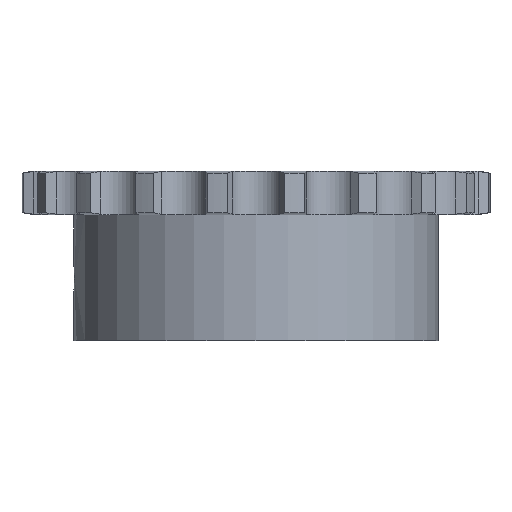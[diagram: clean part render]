
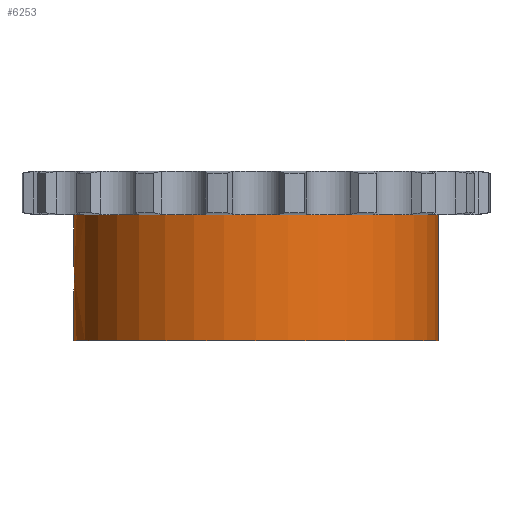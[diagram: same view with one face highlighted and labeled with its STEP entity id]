
A CAD part, front view. The second image highlights one B-rep face of the part: STEP entity #6253.
In plain terms, the highlighted cylindrical face has radius 30 mm (diameter 60 mm), a partial arc.
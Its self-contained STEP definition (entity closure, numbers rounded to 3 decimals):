
#1298=CARTESIAN_POINT('',(0.,0.,-3.6));
#1299=DIRECTION('',(0.,0.,1.));
#1300=DIRECTION('',(-1.,0.,0.));
#1301=AXIS2_PLACEMENT_3D('',#1298,#1299,#1300);
#3091=CARTESIAN_POINT('',(-30.,0.,
-12.));
#3112=DIRECTION('',(0.,0.,1.));
#3113=VECTOR('',#3112,20.8);
#3114=CARTESIAN_POINT('',(30.,0.,-24.4));
#3115=LINE('',#3114,#3113);
#3227=CARTESIAN_POINT('',(-30.,0.,
-12.));
#3228=CARTESIAN_POINT('',(-30.,-0.119,
-12.));
#3229=CARTESIAN_POINT('',(-29.999,-0.353,
-12.02));
#3230=CARTESIAN_POINT('',(-29.992,-0.701,
-12.113));
#3231=CARTESIAN_POINT('',(-29.983,-1.023,
-12.263));
#3232=CARTESIAN_POINT('',(-29.972,-1.313,
-12.465));
#3233=CARTESIAN_POINT('',(-29.959,-1.564,
-12.715));
#3234=CARTESIAN_POINT('',(-29.948,-1.769,
-13.007));
#3235=CARTESIAN_POINT('',(-29.939,-1.917,
-13.328));
#3236=CARTESIAN_POINT('',(-29.933,-2.005,
-13.667));
#3237=CARTESIAN_POINT('',(-29.932,-2.024,
-13.889));
#3238=CARTESIAN_POINT('',(-29.932,-2.024,
-14.));
#3243=DIRECTION('',(0.,0.,1.));
#3244=VECTOR('',#3243,8.4);
#3245=CARTESIAN_POINT('',(-30.,0.,
-12.));
#3246=LINE('',#3245,#3244);
#3250=DIRECTION('',(0.,0.,1.));
#3251=VECTOR('',#3250,8.4);
#3252=CARTESIAN_POINT('',(-30.,0.,-24.4));
#3253=LINE('',#3252,#3251);
#3257=CARTESIAN_POINT('',(-29.932,-2.024,
-14.));
#3258=CARTESIAN_POINT('',(-29.932,-2.024,
-14.111));
#3259=CARTESIAN_POINT('',(-29.933,-2.005,
-14.333));
#3260=CARTESIAN_POINT('',(-29.939,-1.918,
-14.67));
#3261=CARTESIAN_POINT('',(-29.948,-1.77,
-14.992));
#3262=CARTESIAN_POINT('',(-29.959,-1.565,
-15.284));
#3263=CARTESIAN_POINT('',(-29.972,-1.313,
-15.535));
#3264=CARTESIAN_POINT('',(-29.983,-1.023,
-15.737));
#3265=CARTESIAN_POINT('',(-29.992,-0.701,
-15.887));
#3266=CARTESIAN_POINT('',(-29.999,-0.353,
-15.98));
#3267=CARTESIAN_POINT('',(-30.,-0.119,
-16.));
#3268=CARTESIAN_POINT('',(-30.,0.,
-16.));
#3281=CARTESIAN_POINT('',(0.,0.,-24.4));
#3282=DIRECTION('',(0.,0.,-1.));
#3283=DIRECTION('',(1.,0.,0.));
#3284=AXIS2_PLACEMENT_3D('',#3281,#3282,#3283);
#3654=CARTESIAN_POINT('',(-30.,0.,-24.4));
#3655=CARTESIAN_POINT('',(30.,0.,-24.4));
#3656=VERTEX_POINT('',#3654);
#3657=VERTEX_POINT('',#3655);
#3658=CARTESIAN_POINT('',(30.,0.,-3.6));
#3659=VERTEX_POINT('',#3658);
#3660=CARTESIAN_POINT('',(-30.,0.,-3.6));
#3661=VERTEX_POINT('',#3660);
#3861=VERTEX_POINT('',#3091);
#3864=VERTEX_POINT('',#3238);
#3866=VERTEX_POINT('',#3268);
#6237=CARTESIAN_POINT('',(0.,0.,3.6));
#6238=DIRECTION('',(0.,0.,1.));
#6239=DIRECTION('',(1.,0.,0.));
#6240=AXIS2_PLACEMENT_3D('',#6237,#6238,#6239);
#6241=CYLINDRICAL_SURFACE('',#6240,30.);
#6242=ORIENTED_EDGE('',*,*,#6227,.F.);
#6243=ORIENTED_EDGE('',*,*,#5882,.T.);
#6244=ORIENTED_EDGE('',*,*,#5189,.T.);
#6245=ORIENTED_EDGE('',*,*,#5879,.F.);
#6247=ORIENTED_EDGE('',*,*,#6246,.T.);
#6248=ORIENTED_EDGE('',*,*,#5875,.T.);
#6250=ORIENTED_EDGE('',*,*,#6249,.F.);
#6251=EDGE_LOOP('',(#6242,#6243,#6244,#6245,#6247,#6248,#6250));
#6252=FACE_OUTER_BOUND('',#6251,.F.);
#6253=ADVANCED_FACE('',(#6252),#6241,.T.);
#1302=CIRCLE('',#1301,30.);
#3239=B_SPLINE_CURVE_WITH_KNOTS('',3,(#3227,#3228,#3229,#3230,#3231,#3232,#3233,
#3234,#3235,#3236,#3237,#3238),.UNSPECIFIED.,.F.,.F.,(4,1,1,1,1,1,1,1,1,4),
(0.,0.111,0.222,0.333,0.444,
0.556,0.667,0.778,0.889,1.),
.UNSPECIFIED.);
#3269=B_SPLINE_CURVE_WITH_KNOTS('',3,(#3257,#3258,#3259,#3260,#3261,#3262,#3263,
#3264,#3265,#3266,#3267,#3268),.UNSPECIFIED.,.F.,.F.,(4,1,1,1,1,1,1,1,1,4),
(0.,0.111,0.222,0.333,0.444,
0.556,0.667,0.778,0.889,1.),
.UNSPECIFIED.);
#3285=CIRCLE('',#3284,30.);
#5189=EDGE_CURVE('',#3661,#3659,#1302,.T.);
#5875=EDGE_CURVE('',#3656,#3866,#3253,.T.);
#5879=EDGE_CURVE('',#3657,#3659,#3115,.T.);
#5882=EDGE_CURVE('',#3861,#3661,#3246,.T.);
#6227=EDGE_CURVE('',#3861,#3864,#3239,.T.);
#6246=EDGE_CURVE('',#3657,#3656,#3285,.T.);
#6249=EDGE_CURVE('',#3864,#3866,#3269,.T.);
